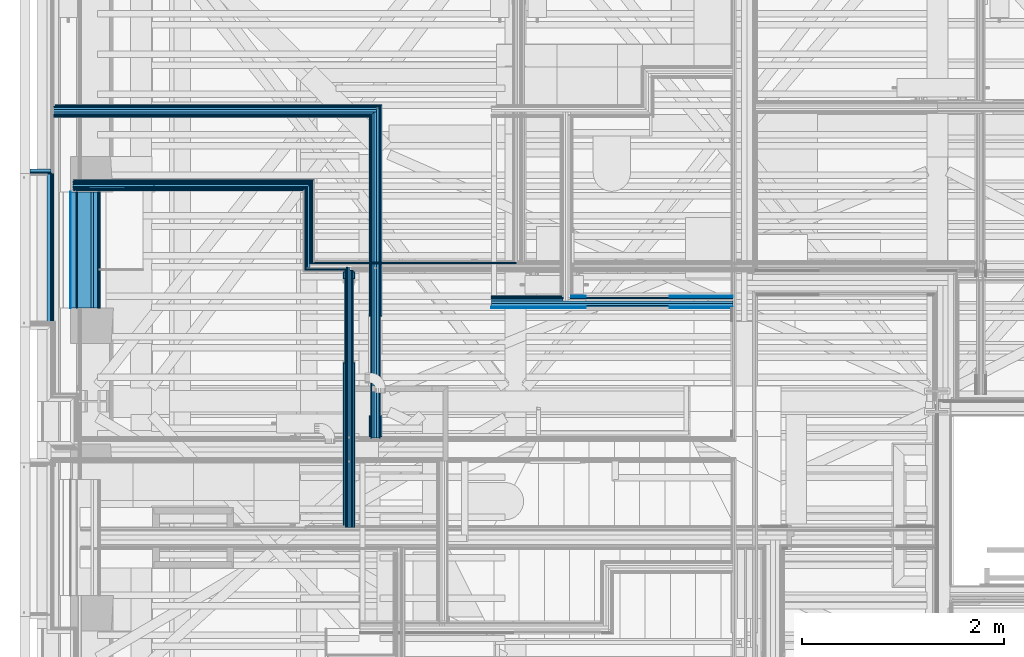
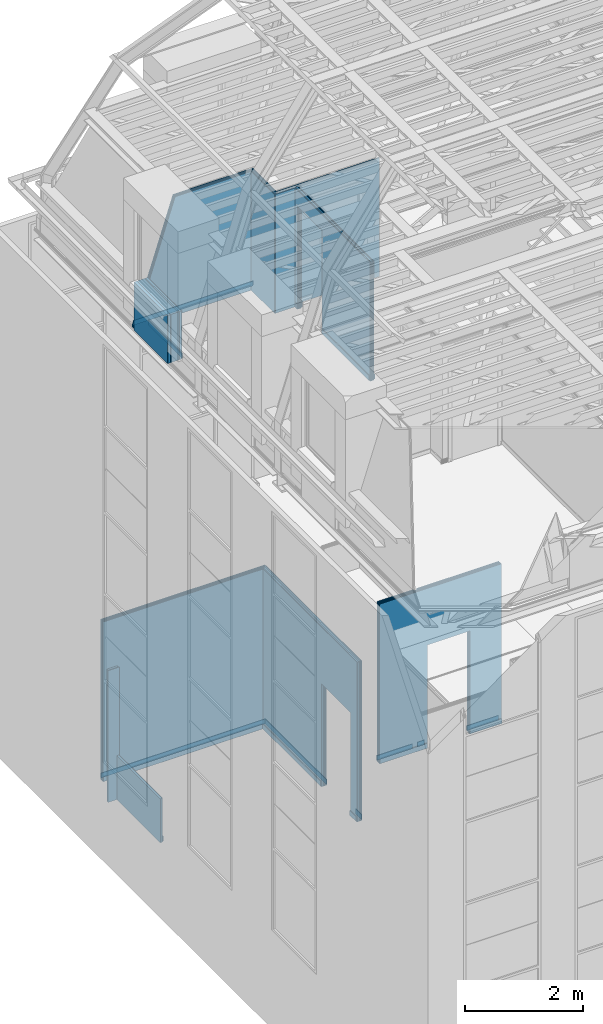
# One storey, part 38 of 183: 57 building element parts, 3 openings, 10 elements without a shape of their own.
"""IFC2X3 building model written with IfcOpenShell, lengths in metres."""

from ifc_helpers import new_model, entity, si_unit, converted_unit, derived_unit, money_unit, direction, frame, frame_2d, origin_with_axes, place, context, subcontext, project, spatial, polyline, rectangle, outline, extrude, clip, halfspace, material, type_object, element, aggregate, save


model = new_model("IFC2X3")

# Units and contexts
model_context = context("Model", 3, precision=1e-05, world=origin_with_axes(), true_north=direction((0.0, 1.0)))
body_context = subcontext(model_context, "Body", "Model", "MODEL_VIEW", scale=1.0)
ifc_project = project(units=[si_unit("LENGTHUNIT", "METRE"), si_unit("AREAUNIT", "SQUARE_METRE"), si_unit("VOLUMEUNIT", "CUBIC_METRE"), si_unit("ABSORBEDDOSEUNIT", "GRAY"), si_unit("AMOUNTOFSUBSTANCEUNIT", "MOLE"), si_unit("DOSEEQUIVALENTUNIT", "SIEVERT"), si_unit("ELECTRICCAPACITANCEUNIT", "FARAD"), si_unit("ELECTRICCHARGEUNIT", "COULOMB"), si_unit("ELECTRICCONDUCTANCEUNIT", "SIEMENS"), si_unit("ELECTRICCURRENTUNIT", "AMPERE"), si_unit("ELECTRICRESISTANCEUNIT", "OHM"), si_unit("ELECTRICVOLTAGEUNIT", "VOLT"), si_unit("ENERGYUNIT", "JOULE"), si_unit("FORCEUNIT", "NEWTON"), si_unit("FREQUENCYUNIT", "HERTZ"), si_unit("ILLUMINANCEUNIT", "LUX"), si_unit("INDUCTANCEUNIT", "HENRY"), si_unit("LUMINOUSFLUXUNIT", "LUMEN"), si_unit("LUMINOUSINTENSITYUNIT", "CANDELA"), si_unit("MAGNETICFLUXDENSITYUNIT", "TESLA"), si_unit("MAGNETICFLUXUNIT", "WEBER"), si_unit("MASSUNIT", "GRAM"), converted_unit("PLANEANGLEUNIT", "degree", entity("IfcReal", 0.0174532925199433), si_unit("PLANEANGLEUNIT", "RADIAN"), dimensions=[0, 0, 0, 0, 0, 0, 0]), si_unit("POWERUNIT", "WATT"), si_unit("PRESSUREUNIT", "PASCAL"), si_unit("RADIOACTIVITYUNIT", "BECQUEREL"), si_unit("SOLIDANGLEUNIT", "STERADIAN"), si_unit("THERMODYNAMICTEMPERATUREUNIT", "KELVIN"), si_unit("TIMEUNIT", "SECOND"), derived_unit("ACCELERATIONUNIT", [(si_unit("LENGTHUNIT", "METRE"), 1), (si_unit("TIMEUNIT", "SECOND"), -2)]), derived_unit("ANGULARVELOCITYUNIT", [(converted_unit("PLANEANGLEUNIT", "degree", entity("IfcReal", 0.0174532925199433), si_unit("PLANEANGLEUNIT", "RADIAN"), dimensions=[0, 0, 0, 0, 0, 0, 0]), 1), (si_unit("TIMEUNIT", "SECOND"), -1)]), derived_unit("CURVATUREUNIT", [(converted_unit("PLANEANGLEUNIT", "degree", entity("IfcReal", 0.0174532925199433), si_unit("PLANEANGLEUNIT", "RADIAN"), dimensions=[0, 0, 0, 0, 0, 0, 0]), 1), (si_unit("LENGTHUNIT", "METRE"), -1)]), derived_unit("DYNAMICVISCOSITYUNIT", [(si_unit("PRESSUREUNIT", "PASCAL"), 1), (si_unit("TIMEUNIT", "SECOND"), 1)]), derived_unit("HEATFLUXDENSITYUNIT", [(si_unit("POWERUNIT", "WATT"), 1), (si_unit("LENGTHUNIT", "METRE"), -2)]), derived_unit("HEATINGVALUEUNIT", [(si_unit("ENERGYUNIT", "JOULE"), 1), (si_unit("MASSUNIT", "GRAM"), -1)]), derived_unit("INTEGERCOUNTRATEUNIT", [(si_unit("TIMEUNIT", "SECOND"), -1)]), derived_unit("IONCONCENTRATIONUNIT", [(si_unit("MASSUNIT", "GRAM"), 1), (si_unit("VOLUMEUNIT", "CUBIC_METRE"), -1)]), derived_unit("ISOTHERMALMOISTURECAPACITYUNIT", [(si_unit("VOLUMEUNIT", "CUBIC_METRE"), 1), (si_unit("MASSUNIT", "GRAM"), -1)]), derived_unit("KINEMATICVISCOSITYUNIT", [(si_unit("AREAUNIT", "SQUARE_METRE"), 1), (si_unit("TIMEUNIT", "SECOND"), -1)]), derived_unit("LINEARFORCEUNIT", [(si_unit("FORCEUNIT", "NEWTON"), 1), (si_unit("LENGTHUNIT", "METRE"), -1)]), derived_unit("LINEARMOMENTUNIT", [(si_unit("FORCEUNIT", "NEWTON"), 1), (si_unit("LENGTHUNIT", "METRE"), -1)]), derived_unit("LINEARSTIFFNESSUNIT", [(si_unit("FORCEUNIT", "NEWTON"), 1), (si_unit("LENGTHUNIT", "METRE"), -1)]), derived_unit("LINEARVELOCITYUNIT", [(si_unit("LENGTHUNIT", "METRE"), 1), (si_unit("TIMEUNIT", "SECOND"), -1)]), derived_unit("LUMINOUSINTENSITYDISTRIBUTIONUNIT", [(si_unit("LUMINOUSINTENSITYUNIT", "CANDELA"), 1), (si_unit("LUMINOUSFLUXUNIT", "LUMEN"), -1)]), derived_unit("MASSDENSITYUNIT", [(si_unit("MASSUNIT", "GRAM"), 1), (si_unit("VOLUMEUNIT", "CUBIC_METRE"), -1)]), derived_unit("MASSFLOWRATEUNIT", [(si_unit("MASSUNIT", "GRAM"), 1), (si_unit("TIMEUNIT", "SECOND"), -1)]), derived_unit("MASSPERLENGTHUNIT", [(si_unit("MASSUNIT", "GRAM"), 1), (si_unit("LENGTHUNIT", "METRE"), -1)]), derived_unit("MODULUSOFELASTICITYUNIT", [(si_unit("FORCEUNIT", "NEWTON"), 1), (si_unit("AREAUNIT", "SQUARE_METRE"), -1)]), derived_unit("MODULUSOFLINEARSUBGRADEREACTIONUNIT", [(si_unit("FORCEUNIT", "NEWTON"), 1), (si_unit("LENGTHUNIT", "METRE"), -2)]), derived_unit("MODULUSOFROTATIONALSUBGRADEREACTIONUNIT", [(si_unit("FORCEUNIT", "NEWTON"), 1), (si_unit("LENGTHUNIT", "METRE"), 1)]), derived_unit("MODULUSOFSUBGRADEREACTIONUNIT", [(si_unit("FORCEUNIT", "NEWTON"), 1), (si_unit("VOLUMEUNIT", "CUBIC_METRE"), -1)]), derived_unit("MOISTUREDIFFUSIVITYUNIT", [(si_unit("VOLUMEUNIT", "CUBIC_METRE"), 1), (si_unit("TIMEUNIT", "SECOND"), -1)]), derived_unit("MOLECULARWEIGHTUNIT", [(si_unit("MASSUNIT", "GRAM"), 1), (si_unit("AMOUNTOFSUBSTANCEUNIT", "MOLE"), -1)]), derived_unit("PLANARFORCEUNIT", [(si_unit("FORCEUNIT", "NEWTON"), 1), (si_unit("LENGTHUNIT", "METRE"), -2)]), derived_unit("ROTATIONALFREQUENCYUNIT", [(si_unit("TIMEUNIT", "SECOND"), -1)]), derived_unit("ROTATIONALMASSUNIT", [(si_unit("MASSUNIT", "GRAM"), 1), (si_unit("LENGTHUNIT", "METRE"), 2)]), derived_unit("ROTATIONALSTIFFNESSUNIT", [(si_unit("FORCEUNIT", "NEWTON"), 1), (si_unit("LENGTHUNIT", "METRE"), 1), (converted_unit("PLANEANGLEUNIT", "degree", entity("IfcReal", 0.0174532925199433), si_unit("PLANEANGLEUNIT", "RADIAN"), dimensions=[0, 0, 0, 0, 0, 0, 0]), -1)]), derived_unit("SECTIONAREAINTEGRALUNIT", [(si_unit("LENGTHUNIT", "METRE"), 5)]), derived_unit("SECTIONMODULUSUNIT", [(si_unit("LENGTHUNIT", "METRE"), 3)]), derived_unit("SHEARMODULUSUNIT", [(si_unit("FORCEUNIT", "NEWTON"), 1), (si_unit("AREAUNIT", "SQUARE_METRE"), -1)]), derived_unit("SOUNDPOWERUNIT", [(si_unit("ENERGYUNIT", "JOULE"), 1), (si_unit("TIMEUNIT", "SECOND"), -1)]), derived_unit("SPECIFICHEATCAPACITYUNIT", [(si_unit("FORCEUNIT", "NEWTON"), 1), (si_unit("MASSUNIT", "GRAM"), -1), (si_unit("THERMODYNAMICTEMPERATUREUNIT", "KELVIN"), -1)]), derived_unit("TEMPERATUREGRADIENTUNIT", [(si_unit("THERMODYNAMICTEMPERATUREUNIT", "KELVIN"), 1), (si_unit("LENGTHUNIT", "METRE"), -1)]), derived_unit("THERMALADMITTANCEUNIT", [(si_unit("POWERUNIT", "WATT"), 1), (si_unit("AREAUNIT", "SQUARE_METRE"), -1), (si_unit("THERMODYNAMICTEMPERATUREUNIT", "KELVIN"), -1)]), derived_unit("THERMALCONDUCTANCEUNIT", [(si_unit("POWERUNIT", "WATT"), 1), (si_unit("LENGTHUNIT", "METRE"), -1), (si_unit("THERMODYNAMICTEMPERATUREUNIT", "KELVIN"), -1)]), derived_unit("THERMALEXPANSIONCOEFFICIENTUNIT", [(si_unit("THERMODYNAMICTEMPERATUREUNIT", "KELVIN"), -1)]), derived_unit("THERMALRESISTANCEUNIT", [(si_unit("AREAUNIT", "SQUARE_METRE"), 1), (si_unit("POWERUNIT", "WATT"), -1)]), derived_unit("THERMALTRANSMITTANCEUNIT", [(si_unit("POWERUNIT", "WATT"), 1), (si_unit("AREAUNIT", "SQUARE_METRE"), -1), (si_unit("THERMODYNAMICTEMPERATUREUNIT", "KELVIN"), -1)]), derived_unit("TORQUEUNIT", [(si_unit("FORCEUNIT", "NEWTON"), 1), (si_unit("LENGTHUNIT", "METRE"), 1)]), derived_unit("VAPORPERMEABILITYUNIT", [(si_unit("MASSUNIT", "GRAM"), 1), (si_unit("TIMEUNIT", "SECOND"), -1)]), derived_unit("VOLUMETRICFLOWRATEUNIT", [(si_unit("VOLUMEUNIT", "CUBIC_METRE"), 1), (si_unit("TIMEUNIT", "SECOND"), -1)]), derived_unit("WARPINGCONSTANTUNIT", [(si_unit("LENGTHUNIT", "METRE"), 6)]), derived_unit("WARPINGMOMENTUNIT", [(si_unit("FORCEUNIT", "NEWTON"), 1), (si_unit("LENGTHUNIT", "METRE"), 2)]), money_unit("GBP")], contexts=[model_context])

# Site, building, storey
site_placement = place(None, origin_with_axes())
site = spatial("IfcSite", under=ifc_project, at=site_placement, Name="Site", CompositionType="ELEMENT")
building_placement = place(site_placement, origin_with_axes())
building = spatial("IfcBuilding", under=site, at=building_placement, Name="Building01", CompositionType="ELEMENT")
storey_placement = place(building_placement, frame((0.0, 0.0, 5.15), z_axis=(0.0, 0.0, 1.0), x_axis=(1.0, 0.0, 0.0)))
storey = spatial("IfcBuildingStorey", under=building, at=storey_placement, Name="1F", CompositionType="ELEMENT", Elevation=5.15)

# Wall, opening, building element parts
wall_type_1 = type_object("IfcWallType", Name="SHE_A-Walls_Type05a_Partition_95mm_tall", PredefinedType="NOTDEFINED")
wall_1_placement = place(storey_placement, frame((7.064669, 9.79567, 0.0), z_axis=(0.0, 0.0, 1.0), x_axis=(-1.0, 0.0, 0.0)))
wall_1 = element("IfcWall", 1, at=wall_1_placement, inside=storey, type_object=wall_type_1, Name="5A", ObjectType="SHE_A-Walls_Type05a_Partition_95mm_tall")
opening_1_placement = place(wall_1_placement, frame((0.624, -0.05, 0.0), z_axis=(0.0, 0.0, 1.0), x_axis=(1.0, 0.0, 0.0)))
element("IfcOpeningElement", 2, at=opening_1_placement, cuts=wall_1, Name="Opening", ObjectType="Opening", context=body_context, shape_type="SweptSolid", body=[
    extrude(rectangle(XDim=2.142, YDim=0.834, at=frame_2d((-0.417, 1.071), x_axis=(0.0, -1.0))), frame((0.0, 0.0, 0.0), z_axis=(0.0, 1.0, 0.0), x_axis=(-1.0, 0.0, 0.0)), (0.0, 0.0, 1.0), 0.125),
])
ifc_material_1 = material(Name="A_BSUK_Walls_Timber")
placement_1 = place(wall_1_placement, origin_with_axes())
building_element_part_1 = element("IfcBuildingElementPart", 3, at=placement_1, material=ifc_material_1, Name="1", context=body_context, shape_type="SweptSolid", body=[
    extrude(rectangle(XDim=1.6, YDim=0.015, at=frame_2d((0.8, -0.0425), x_axis=(-1.0, 0.0))), frame((0.0, 0.0, 0.015), z_axis=(0.0, 0.0, 1.0), x_axis=(1.0, 0.0, 0.0)), (0.0, 0.0, 1.0), 0.1),
])
building_element_part_2 = element("IfcBuildingElementPart", 4, at=placement_1, material=ifc_material_1, Name="2", context=body_context, shape_type="SweptSolid", body=[
    extrude(rectangle(XDim=0.7, YDim=0.015, at=frame_2d((2.045, -0.0425), x_axis=(-1.0, 0.0))), frame((0.0, 0.0, 0.015), z_axis=(0.0, 0.0, 1.0), x_axis=(1.0, 0.0, 0.0)), (0.0, 0.0, 1.0), 0.1),
])
ifc_material_2 = material(Name="A_BSUK_WallInternal_Finishes_Plasterboard")
building_element_part_3 = element("IfcBuildingElementPart", 5, at=placement_1, material=ifc_material_2, Name="3", context=body_context, shape_type="SweptSolid", body=[
    extrude(rectangle(XDim=1.612, YDim=0.012, at=frame_2d((0.806, -0.029), x_axis=(-1.0, 0.0))), origin_with_axes(), (0.0, 0.0, 1.0), 3.32),
])
building_element_part_4 = element("IfcBuildingElementPart", 6, at=placement_1, material=ifc_material_2, Name="4", context=body_context, shape_type="SweptSolid", body=[
    extrude(rectangle(XDim=0.712, YDim=0.012, at=frame_2d((2.039, -0.029), x_axis=(-1.0, 0.0))), origin_with_axes(), (0.0, 0.0, 1.0), 3.32),
])
ifc_material_3 = material(Name="Air Cavity")
building_element_part_5 = element("IfcBuildingElementPart", 7, at=placement_1, material=ifc_material_3, Name="5", context=body_context, shape_type="SweptSolid", body=[
    extrude(rectangle(XDim=0.712, YDim=0.023, at=frame_2d((2.039, -0.0115), x_axis=(-1.0, 0.0))), origin_with_axes(), (0.0, 0.0, 1.0), 3.32),
])
ifc_material_4 = material(Name="A_BSUK_Insulation")
building_element_part_6 = element("IfcBuildingElementPart", 8, at=placement_1, material=ifc_material_4, Name="6", context=body_context, shape_type="SweptSolid", body=[
    extrude(rectangle(XDim=2.395, YDim=0.025, at=frame_2d((1.1975, 0.0125), x_axis=(-1.0, 0.0))), origin_with_axes(), (0.0, 0.0, 1.0), 3.32),
])
building_element_part_7 = element("IfcBuildingElementPart", 9, at=placement_1, material=ifc_material_3, Name="7", context=body_context, shape_type="SweptSolid", body=[
    extrude(rectangle(XDim=2.395, YDim=0.023, at=frame_2d((1.1975, 0.0365), x_axis=(-1.0, 0.0))), origin_with_axes(), (0.0, 0.0, 1.0), 3.32),
])
building_element_part_8 = element("IfcBuildingElementPart", 10, at=placement_1, material=ifc_material_2, Name="8", context=body_context, shape_type="SweptSolid", body=[
    extrude(rectangle(XDim=2.395, YDim=0.012, at=frame_2d((1.1975, 0.054), x_axis=(-1.0, 0.0))), origin_with_axes(), (0.0, 0.0, 1.0), 3.32),
])
building_element_part_9 = element("IfcBuildingElementPart", 11, at=placement_1, material=ifc_material_1, Name="9", context=body_context, shape_type="SweptSolid", body=[
    extrude(rectangle(XDim=2.395, YDim=0.015, at=frame_2d((1.1975, 0.0675), x_axis=(-1.0, 0.0))), frame((0.0, 0.0, 0.015), z_axis=(0.0, 0.0, 1.0), x_axis=(1.0, 0.0, 0.0)), (0.0, 0.0, 1.0), 0.1),
])
aggregate(wall_1, [building_element_part_1, building_element_part_2, building_element_part_3, building_element_part_4, building_element_part_5, building_element_part_6, building_element_part_7, building_element_part_8, building_element_part_9])

wall_2_placement = place(storey_placement, frame((3.534669, 8.43567, 0.0), z_axis=(0.0, 0.0, 1.0), x_axis=(0.0, 1.0, 0.0)))
wall_2 = element("IfcWall", 12, at=wall_2_placement, inside=storey, type_object=wall_type_1, Name="5A", ObjectType="SHE_A-Walls_Type05a_Partition_95mm_tall")
opening_2_placement = place(wall_2_placement, frame((0.223034, -0.05, 0.0), z_axis=(0.0, 0.0, 1.0), x_axis=(1.0, 0.0, 0.0)))
element("IfcOpeningElement", 13, at=opening_2_placement, cuts=wall_2, Name="Opening", ObjectType="Opening", context=body_context, shape_type="SweptSolid", body=[
    extrude(rectangle(XDim=0.984, YDim=2.142, at=frame_2d((-0.492, 1.071), x_axis=(1.0, 0.0))), frame((0.0, 0.0, 0.0), z_axis=(0.0, 1.0, 0.0), x_axis=(-1.0, 0.0, 0.0)), (0.0, 0.0, 1.0), 0.125),
])
placement_2 = place(wall_2_placement, origin_with_axes())
building_element_part_10 = element("IfcBuildingElementPart", 14, at=placement_2, material=ifc_material_1, Name="1", context=body_context, shape_type="SweptSolid", body=[
    extrude(outline(polyline([(3.29, -0.035), (0.015, -0.035), (0.015, -0.05), (3.305, -0.05), (3.29, -0.035)])), frame((0.0, 0.0, 0.015), z_axis=(0.0, 0.0, 1.0), x_axis=(1.0, 0.0, 0.0)), (0.0, 0.0, 1.0), 0.1),
])
building_element_part_11 = element("IfcBuildingElementPart", 15, at=placement_2, material=ifc_material_2, Name="2", context=body_context, shape_type="SweptSolid", body=[
    extrude(outline(polyline([(3.278, -0.023), (0.0, -0.023), (0.0, -0.035), (3.29, -0.035), (3.278, -0.023)])), origin_with_axes(), (0.0, 0.0, 1.0), 3.32),
])
building_element_part_12 = element("IfcBuildingElementPart", 16, at=placement_2, material=ifc_material_3, Name="3", context=body_context, shape_type="SweptSolid", body=[
    extrude(outline(polyline([(3.255, 0.0), (0.0, 0.0), (0.0, -0.023), (3.278, -0.023), (3.255, 0.0)])), origin_with_axes(), (0.0, 0.0, 1.0), 3.32),
])
building_element_part_13 = element("IfcBuildingElementPart", 17, at=placement_2, material=ifc_material_4, Name="4", context=body_context, shape_type="SweptSolid", body=[
    extrude(rectangle(XDim=3.23, YDim=0.025, at=frame_2d((1.615, 0.0125), x_axis=(-1.0, 0.0))), origin_with_axes(), (0.0, 0.0, 1.0), 3.32),
])
building_element_part_14 = element("IfcBuildingElementPart", 18, at=placement_2, material=ifc_material_3, Name="5", context=body_context, shape_type="SweptSolid", body=[
    extrude(rectangle(XDim=3.23, YDim=0.023, at=frame_2d((1.615, 0.0365), x_axis=(-1.0, 0.0))), origin_with_axes(), (0.0, 0.0, 1.0), 3.32),
])
building_element_part_15 = element("IfcBuildingElementPart", 19, at=placement_2, material=ifc_material_2, Name="6", context=body_context, shape_type="SweptSolid", body=[
    extrude(outline(polyline([(3.195, 0.06), (0.0, 0.06), (0.0, 0.048), (3.207, 0.048), (3.195, 0.06)])), origin_with_axes(), (0.0, 0.0, 1.0), 3.32),
])
building_element_part_16 = element("IfcBuildingElementPart", 20, at=placement_2, material=ifc_material_1, Name="7", context=body_context, shape_type="SweptSolid", body=[
    extrude(outline(polyline([(3.18, 0.075), (0.015, 0.075), (0.015, 0.06), (3.195, 0.06), (3.18, 0.075)])), frame((0.0, 0.0, 0.015), z_axis=(0.0, 0.0, 1.0), x_axis=(1.0, 0.0, 0.0)), (0.0, 0.0, 1.0), 0.1),
])
aggregate(wall_2, [building_element_part_10, building_element_part_11, building_element_part_12, building_element_part_13, building_element_part_14, building_element_part_15, building_element_part_16])

# Wall, building element parts
wall_3_placement = place(storey_placement, frame((0.333, 11.69067, 0.0), z_axis=(0.0, 0.0, 1.0), x_axis=(1.0, 0.0, 0.0)))
wall_3 = element("IfcWall", 21, at=wall_3_placement, inside=storey, type_object=wall_type_1, Name="5A", ObjectType="SHE_A-Walls_Type05a_Partition_95mm_tall")
placement_3 = place(wall_3_placement, origin_with_axes())
building_element_part_17 = element("IfcBuildingElementPart", 22, at=placement_3, material=ifc_material_1, Name="1", context=body_context, shape_type="SweptSolid", body=[
    extrude(outline(polyline([(3.141669, -0.06), (0.0, -0.06), (0.0, -0.075), (3.126669, -0.075), (3.141669, -0.06)])), frame((0.0, 0.0, 0.015), z_axis=(0.0, 0.0, 1.0), x_axis=(1.0, 0.0, 0.0)), (0.0, 0.0, 1.0), 0.1),
])
building_element_part_18 = element("IfcBuildingElementPart", 23, at=placement_3, material=ifc_material_2, Name="2", context=body_context, shape_type="SweptSolid", body=[
    extrude(outline(polyline([(3.153669, -0.048), (0.0, -0.048), (0.0, -0.06), (3.141669, -0.06), (3.153669, -0.048)])), origin_with_axes(), (0.0, 0.0, 1.0), 3.32),
])
building_element_part_19 = element("IfcBuildingElementPart", 24, at=placement_3, material=ifc_material_3, Name="3", context=body_context, shape_type="SweptSolid", body=[
    extrude(outline(polyline([(3.176669, -0.025), (0.0, -0.025), (0.0, -0.048), (3.153669, -0.048), (3.176669, -0.025)])), origin_with_axes(), (0.0, 0.0, 1.0), 3.32),
])
building_element_part_20 = element("IfcBuildingElementPart", 25, at=placement_3, material=ifc_material_4, Name="4", context=body_context, shape_type="SweptSolid", body=[
    extrude(rectangle(XDim=3.201669, YDim=0.025, at=frame_2d((1.600834, -0.0125), x_axis=(-1.0, 0.0))), origin_with_axes(), (0.0, 0.0, 1.0), 3.32),
])
building_element_part_21 = element("IfcBuildingElementPart", 26, at=placement_3, material=ifc_material_3, Name="5", context=body_context, shape_type="SweptSolid", body=[
    extrude(rectangle(XDim=3.201669, YDim=0.023, at=frame_2d((1.600834, 0.0115), x_axis=(-1.0, 0.0))), origin_with_axes(), (0.0, 0.0, 1.0), 3.32),
])
building_element_part_22 = element("IfcBuildingElementPart", 27, at=placement_3, material=ifc_material_2, Name="6", context=body_context, shape_type="SweptSolid", body=[
    extrude(outline(polyline([(3.236669, 0.035), (0.0, 0.035), (0.0, 0.023), (3.224669, 0.023), (3.236669, 0.035)])), origin_with_axes(), (0.0, 0.0, 1.0), 3.32),
])
building_element_part_23 = element("IfcBuildingElementPart", 28, at=placement_3, material=ifc_material_1, Name="7", context=body_context, shape_type="SweptSolid", body=[
    extrude(outline(polyline([(3.251669, 0.05), (0.015, 0.05), (0.015, 0.035), (3.236669, 0.035), (3.251669, 0.05)])), frame((0.0, 0.0, 0.015), z_axis=(0.0, 0.0, 1.0), x_axis=(1.0, 0.0, 0.0)), (0.0, 0.0, 1.0), 0.1),
])
aggregate(wall_3, [building_element_part_17, building_element_part_18, building_element_part_19, building_element_part_20, building_element_part_21, building_element_part_22, building_element_part_23])

wall_type_2 = type_object("IfcWallType", Name="SHE_A-Walls_Type06d_ExternalWallInsulation_48mm", PredefinedType="NOTDEFINED")
wall_4_placement = place(storey_placement, frame((0.306, 11.103, 0.0), z_axis=(0.0, 0.0, 1.0), x_axis=(-1.0, 0.0, 0.0)))
wall_4 = element("IfcWall", 29, at=wall_4_placement, inside=storey, type_object=wall_type_2, Name="6D", ObjectType="SHE_A-Walls_Type06d_ExternalWallInsulation_48mm")
placement_4 = place(wall_4_placement, origin_with_axes())
building_element_part_24 = element("IfcBuildingElementPart", 30, at=placement_4, material=ifc_material_4, Name="1", context=body_context, shape_type="SweptSolid", body=[
    extrude(rectangle(XDim=0.036, YDim=0.206, at=frame_2d((0.103, 0.018), x_axis=(0.0, -1.0))), origin_with_axes(), (0.0, 0.0, 1.0), 2.74),
])
building_element_part_25 = element("IfcBuildingElementPart", 31, at=placement_4, material=ifc_material_2, Name="2", context=body_context, shape_type="SweptSolid", body=[
    extrude(outline(polyline([(-0.012, 0.048), (0.001, 0.035), (0.206, 0.035), (0.206, 0.048), (-0.012, 0.048)])), origin_with_axes(), (0.0, 0.0, 1.0), 2.74),
])
aggregate(wall_4, [building_element_part_24, building_element_part_25])

wall_5_placement = place(storey_placement, frame((0.306, 11.055, 0.0), z_axis=(0.0, 0.0, 1.0), x_axis=(0.0, -1.0, 0.0)))
wall_5 = element("IfcWall", 32, at=wall_5_placement, inside=storey, type_object=wall_type_2, Name="6D", ObjectType="SHE_A-Walls_Type06d_ExternalWallInsulation_48mm")
placement_5 = place(wall_5_placement, origin_with_axes())
building_element_part_26 = element("IfcBuildingElementPart", 33, at=placement_5, material=ifc_material_4, Name="1", context=body_context, shape_type="SweptSolid", body=[
    extrude(rectangle(XDim=1.47782, YDim=0.036, at=frame_2d((0.73891, -0.018), x_axis=(-1.0, 0.0))), origin_with_axes(), (0.0, 0.0, 1.0), 0.915),
])
building_element_part_27 = element("IfcBuildingElementPart", 34, at=placement_5, material=ifc_material_2, Name="2", context=body_context, shape_type="SweptSolid", body=[
    extrude(rectangle(XDim=1.47782, YDim=0.013, at=frame_2d((0.73891, 0.0055), x_axis=(-1.0, 0.0))), origin_with_axes(), (0.0, 0.0, 1.0), 0.915),
])
building_element_part_28 = element("IfcBuildingElementPart", 35, at=placement_5, material=ifc_material_1, Name="3", context=body_context, shape_type="SweptSolid", body=[
    extrude(rectangle(XDim=1.47782, YDim=0.015, at=frame_2d((0.73891, 0.0195), x_axis=(-1.0, 0.0))), frame((0.0, 0.0, 0.015), z_axis=(0.0, 0.0, 1.0), x_axis=(1.0, 0.0, 0.0)), (0.0, 0.0, 1.0), 0.1),
])
aggregate(wall_5, [building_element_part_26, building_element_part_27, building_element_part_28])

# Wall, opening, building element parts
wall_type_3 = type_object("IfcWallType", Name="SHE_A-Walls_Type05b_Partition_80mm", PredefinedType="NOTDEFINED")
wall_6_placement = place(storey_placement, frame((3.272, 7.550061, 9.78), z_axis=(0.0, 0.0, 1.0), x_axis=(0.0, 1.0, 0.0)))
wall_6 = element("IfcWall", 36, at=wall_6_placement, inside=storey, type_object=wall_type_3, Name="5B", ObjectType="SHE_A-Walls_Type05b_Partition_80mm")
opening_3_placement = place(wall_6_placement, frame((1.632879, -0.043, 0.0), z_axis=(0.0, 0.0, 1.0), x_axis=(1.0, 0.0, 0.0)))
element("IfcOpeningElement", 37, at=opening_3_placement, cuts=wall_6, Name="Opening", ObjectType="Opening", context=body_context, shape_type="SweptSolid", body=[
    extrude(rectangle(XDim=0.834, YDim=2.142, at=frame_2d((-0.417, 1.071), x_axis=(-1.0, 0.0))), frame((0.0, 0.0, 0.0), z_axis=(0.0, 1.0, 0.0), x_axis=(-1.0, 0.0, 0.0)), (0.0, 0.0, 1.0), 0.11),
])
placement_6 = place(wall_6_placement, origin_with_axes())
building_element_part_29 = element("IfcBuildingElementPart", 38, at=placement_6, material=ifc_material_1, Name="1", context=body_context, shape_type="SweptSolid", body=[
    extrude(rectangle(XDim=2.534879, YDim=0.015, at=frame_2d((1.267439, -0.0355), x_axis=(-1.0, 0.0))), frame((0.0, 0.0, 0.015), z_axis=(0.0, 0.0, 1.0), x_axis=(1.0, 0.0, 0.0)), (0.0, 0.0, 1.0), 0.1),
])
building_element_part_30 = element("IfcBuildingElementPart", 39, at=placement_6, material=ifc_material_2, Name="2", context=body_context, shape_type="SweptSolid", body=[
    extrude(rectangle(XDim=2.549879, YDim=0.015, at=frame_2d((1.274939, -0.0205), x_axis=(-1.0, 0.0))), origin_with_axes(), (0.0, 0.0, 1.0), 2.468),
])
building_element_part_31 = element("IfcBuildingElementPart", 40, at=placement_6, material=ifc_material_3, Name="3", context=body_context, shape_type="SweptSolid", body=[
    extrude(rectangle(XDim=2.549879, YDim=0.013, at=frame_2d((1.274939, -0.0065), x_axis=(-1.0, 0.0))), origin_with_axes(), (0.0, 0.0, 1.0), 2.468),
])
building_element_part_32 = element("IfcBuildingElementPart", 41, at=placement_6, material=ifc_material_4, Name="4", context=body_context, shape_type="SweptSolid", body=[
    extrude(rectangle(XDim=2.576879, YDim=0.025, at=frame_2d((1.288439, 0.0125), x_axis=(-1.0, 0.0))), origin_with_axes(), (0.0, 0.0, 1.0), 2.468),
])
building_element_part_33 = element("IfcBuildingElementPart", 42, at=placement_6, material=ifc_material_3, Name="5", context=body_context, shape_type="SweptSolid", body=[
    extrude(rectangle(XDim=2.576879, YDim=0.012, at=frame_2d((1.288439, 0.031), x_axis=(-1.0, 0.0))), origin_with_axes(), (0.0, 0.0, 1.0), 2.468),
])
building_element_part_34 = element("IfcBuildingElementPart", 43, at=placement_6, material=ifc_material_2, Name="6", context=body_context, shape_type="SweptSolid", body=[
    extrude(rectangle(XDim=2.549879, YDim=0.015, at=frame_2d((1.274939, 0.0445), x_axis=(-1.0, 0.0))), origin_with_axes(), (0.0, 0.0, 1.0), 2.468),
])
building_element_part_35 = element("IfcBuildingElementPart", 44, at=placement_6, material=ifc_material_1, Name="7", context=body_context, shape_type="SweptSolid", body=[
    extrude(rectangle(XDim=2.519879, YDim=0.015, at=frame_2d((1.274939, 0.0595), x_axis=(-1.0, 0.0))), frame((0.0, 0.0, 0.015), z_axis=(0.0, 0.0, 1.0), x_axis=(1.0, 0.0, 0.0)), (0.0, 0.0, 1.0), 0.1),
])
aggregate(wall_6, [building_element_part_29, building_element_part_30, building_element_part_31, building_element_part_32, building_element_part_33, building_element_part_34, building_element_part_35])

# Wall, building element parts
wall_type_4 = type_object("IfcWallType", Name="SHE_A-Walls_Type06e_ExternalWallPenthouse_280mm", PredefinedType="NOTDEFINED")
wall_7_placement = place(storey_placement, frame((0.564939, 10.874915, 9.78), z_axis=(0.0, 0.0, 1.0), x_axis=(0.0, 1.0, 0.0)))
wall_7 = element("IfcWall", 45, at=wall_7_placement, inside=storey, type_object=wall_type_4, Name="6E", ObjectType="SHE_A-Walls_Type06e_ExternalWallPenthouse_280mm")
placement_7 = place(wall_7_placement, origin_with_axes())
building_element_part_36 = element("IfcBuildingElementPart", 46, at=placement_7, material=ifc_material_1, Name="1", context=body_context, shape_type="SweptSolid", body=[
    extrude(rectangle(XDim=1.149951, YDim=0.015, at=frame_2d((-0.574976, -0.2225), x_axis=(1.0, 0.0))), frame((0.0, 0.0, 0.015), z_axis=(0.0, 0.0, 1.0), x_axis=(1.0, 0.0, 0.0)), (0.0, 0.0, 1.0), 0.1),
])
building_element_part_37 = element("IfcBuildingElementPart", 47, at=placement_7, material=ifc_material_2, Name="2", context=body_context, shape_type="SweptSolid", body=[
    extrude(rectangle(XDim=1.149951, YDim=0.01, at=frame_2d((-0.574976, -0.21), x_axis=(1.0, 0.0))), origin_with_axes(), (0.0, 0.0, 1.0), 1.0),
])
building_element_part_38 = element("IfcBuildingElementPart", 48, at=placement_7, material=ifc_material_4, Name="3", context=body_context, shape_type="SweptSolid", body=[
    extrude(rectangle(XDim=1.149951, YDim=0.04, at=frame_2d((-0.574976, -0.185), x_axis=(1.0, 0.0))), origin_with_axes(), (0.0, 0.0, 1.0), 1.0),
])
building_element_part_39 = element("IfcBuildingElementPart", 49, at=placement_7, material=ifc_material_3, Name="4", context=body_context, shape_type="SweptSolid", body=[
    extrude(rectangle(XDim=1.149951, YDim=0.025, at=frame_2d((-0.574976, -0.1525), x_axis=(1.0, 0.0))), origin_with_axes(), (0.0, 0.0, 1.0), 1.0),
])
building_element_part_40 = element("IfcBuildingElementPart", 50, at=placement_7, material=ifc_material_4, Name="5", context=body_context, shape_type="SweptSolid", body=[
    extrude(rectangle(XDim=1.149951, YDim=0.14, at=frame_2d((-0.574976, -0.07), x_axis=(1.0, 0.0))), origin_with_axes(), (0.0, 0.0, 1.0), 1.0),
])
building_element_part_41 = element("IfcBuildingElementPart", 51, at=placement_7, material=ifc_material_1, Name="6", context=body_context, shape_type="SweptSolid", body=[
    extrude(rectangle(XDim=1.149951, YDim=0.01, at=frame_2d((-0.574976, 0.005), x_axis=(1.0, 0.0))), origin_with_axes(), (0.0, 0.0, 1.0), 1.0),
])
building_element_part_42 = element("IfcBuildingElementPart", 52, at=placement_7, material=ifc_material_3, Name="7", context=body_context, shape_type="SweptSolid", body=[
    extrude(rectangle(XDim=1.149951, YDim=0.05, at=frame_2d((-0.574976, 0.035), x_axis=(1.0, 0.0))), origin_with_axes(), (0.0, 0.0, 1.0), 1.0),
])
ifc_material_5 = material(Name="A_BSUK_WallInternal_Finishes_Metal")
building_element_part_43 = element("IfcBuildingElementPart", 53, at=placement_7, material=ifc_material_5, Name="8", context=body_context, shape_type="SweptSolid", body=[
    extrude(rectangle(XDim=1.149951, YDim=0.005, at=frame_2d((-0.574976, 0.0625), x_axis=(1.0, 0.0))), origin_with_axes(), (0.0, 0.0, 1.0), 1.0),
])
aggregate(wall_7, [building_element_part_36, building_element_part_37, building_element_part_38, building_element_part_39, building_element_part_40, building_element_part_41, building_element_part_42, building_element_part_43])

wall_8_placement = place(storey_placement, frame((2.872, 10.126939, 9.78), z_axis=(0.0, 0.0, 1.0), x_axis=(1.0, 0.0, 0.0)))
wall_8 = element("IfcWall", 54, at=wall_8_placement, inside=storey, type_object=wall_type_3, Name="5B", ObjectType="SHE_A-Walls_Type05b_Partition_80mm")
placement_8 = place(wall_8_placement, origin_with_axes())
building_element_part_44 = element("IfcBuildingElementPart", 55, at=placement_8, material=ifc_material_2, Name="3", context=body_context, shape_type="SweptSolid", body=[
    extrude(rectangle(XDim=0.4, YDim=0.015, at=frame_2d((0.163, -0.0195), x_axis=(-1.0, 0.0))), origin_with_axes(), (0.0, 0.0, 1.0), 2.468),
])
building_element_part_45 = element("IfcBuildingElementPart", 56, at=placement_8, material=ifc_material_2, Name="8", context=body_context, shape_type="SweptSolid", body=[
    extrude(rectangle(XDim=2.015024, YDim=0.015, at=frame_2d((1.035512, 0.0455), x_axis=(-1.0, 0.0))), origin_with_axes(), (0.0, 0.0, 1.0), 2.468),
])
aggregate(wall_8, [building_element_part_44, building_element_part_45])

wall_9_placement = place(storey_placement, frame((2.873, 10.952915, 9.78), z_axis=(0.0, 0.0, 1.0), x_axis=(-1.0, 0.0, 0.0)))
wall_9 = element("IfcWall", 57, at=wall_9_placement, inside=storey, type_object=wall_type_3, Name="5B", ObjectType="SHE_A-Walls_Type05b_Partition_80mm")
placement_9 = place(wall_9_placement, origin_with_axes())
building_element_part_46 = element("IfcBuildingElementPart", 58, at=placement_9, material=ifc_material_1, Name="1", context=body_context, shape_type="Clipping", body=[
    clip(extrude(outline(polyline([(2.34427, -0.027), (-0.027, -0.027), (-0.042, -0.042), (2.34427, -0.042), (2.34427, -0.027)])), frame((0.0, 0.0, 0.015), z_axis=(0.0, 0.0, 1.0), x_axis=(1.0, 0.0, 0.0)), (0.0, 0.0, 1.0), 0.1), halfspace(frame((2.12482, 0.0, 0.690396), z_axis=(-0.95105652, 0.0, -0.30901699), x_axis=(0.0, -1.0, 0.0)), True)),
])
building_element_part_47 = element("IfcBuildingElementPart", 59, at=placement_9, material=ifc_material_2, Name="2", context=body_context, shape_type="Clipping", body=[
    clip(extrude(outline(polyline([(2.349143, -0.012), (-0.012, -0.012), (-0.027, -0.027), (2.349143, -0.027), (2.349143, -0.012)])), origin_with_axes(), (0.0, 0.0, 1.0), 2.468), halfspace(frame((2.12482, 0.0, 0.690396), z_axis=(-0.95105652, 0.0, -0.30901699), x_axis=(0.0, -1.0, 0.0)), True)),
])
building_element_part_48 = element("IfcBuildingElementPart", 60, at=placement_9, material=ifc_material_3, Name="3", context=body_context, shape_type="Clipping", body=[
    clip(extrude(outline(polyline([(2.349143, 0.0), (0.0, 0.0), (-0.012, -0.012), (2.349143, -0.012), (2.349143, 0.0)])), origin_with_axes(), (0.0, 0.0, 1.0), 2.468), halfspace(frame((2.12482, 0.0, 0.690396), z_axis=(-0.95105652, 0.0, -0.30901699), x_axis=(0.0, -1.0, 0.0)), True)),
])
building_element_part_49 = element("IfcBuildingElementPart", 61, at=placement_9, material=ifc_material_4, Name="4", context=body_context, shape_type="Clipping", body=[
    clip(extrude(outline(polyline([(2.349143, 0.025), (0.025, 0.025), (0.0, 0.0), (2.349143, 0.0), (2.349143, 0.025)])), origin_with_axes(), (0.0, 0.0, 1.0), 2.468), halfspace(frame((2.12482, 0.0, 0.690396), z_axis=(-0.95105652, 0.0, -0.30901699), x_axis=(0.0, -1.0, 0.0)), True)),
])
building_element_part_50 = element("IfcBuildingElementPart", 62, at=placement_9, material=ifc_material_3, Name="5", context=body_context, shape_type="Clipping", body=[
    clip(extrude(outline(polyline([(2.349143, 0.038), (0.038, 0.038), (0.025, 0.025), (2.349143, 0.025), (2.349143, 0.038)])), origin_with_axes(), (0.0, 0.0, 1.0), 2.468), halfspace(frame((2.12482, 0.0, 0.690396), z_axis=(-0.95105652, 0.0, -0.30901699), x_axis=(0.0, -1.0, 0.0)), True)),
])
building_element_part_51 = element("IfcBuildingElementPart", 63, at=placement_9, material=ifc_material_2, Name="6", context=body_context, shape_type="Clipping", body=[
    clip(extrude(outline(polyline([(2.349143, 0.053), (0.053, 0.053), (0.038, 0.038), (2.349143, 0.038), (2.349143, 0.053)])), origin_with_axes(), (0.0, 0.0, 1.0), 2.468), halfspace(frame((2.12482, 0.0, 0.690396), z_axis=(-0.95105652, 0.0, -0.30901699), x_axis=(0.0, -1.0, 0.0)), True)),
])
building_element_part_52 = element("IfcBuildingElementPart", 64, at=placement_9, material=ifc_material_1, Name="7", context=body_context, shape_type="Clipping", body=[
    clip(extrude(outline(polyline([(2.34427, 0.068), (0.068, 0.068), (0.053, 0.053), (2.34427, 0.053), (2.34427, 0.068)])), frame((0.0, 0.0, 0.015), z_axis=(0.0, 0.0, 1.0), x_axis=(1.0, 0.0, 0.0)), (0.0, 0.0, 1.0), 0.1), halfspace(frame((2.12482, 0.0, 0.690396), z_axis=(-0.95105652, 0.0, -0.30901699), x_axis=(0.0, -1.0, 0.0)), True)),
])
aggregate(wall_9, [building_element_part_46, building_element_part_47, building_element_part_48, building_element_part_49, building_element_part_50, building_element_part_51, building_element_part_52])

wall_10_placement = place(storey_placement, frame((2.872, 10.126939, 9.78), z_axis=(0.0, 0.0, 1.0), x_axis=(0.0, 1.0, 0.0)))
wall_10 = element("IfcWall", 65, at=wall_10_placement, inside=storey, type_object=wall_type_3, Name="5B", ObjectType="SHE_A-Walls_Type05b_Partition_80mm")
placement_10 = place(wall_10_placement, origin_with_axes())
building_element_part_53 = element("IfcBuildingElementPart", 66, at=placement_10, material=ifc_material_2, Name="2", context=body_context, shape_type="SweptSolid", body=[
    extrude(outline(polyline([(0.837976, -0.013), (0.038, -0.013), (0.038, -0.028), (0.852976, -0.028), (0.837976, -0.013)])), origin_with_axes(), (0.0, 0.0, 1.0), 2.468),
])
building_element_part_54 = element("IfcBuildingElementPart", 67, at=placement_10, material=ifc_material_3, Name="3", context=body_context, shape_type="SweptSolid", body=[
    extrude(outline(polyline([(0.824976, 0.0), (0.038, 0.0), (0.038, -0.013), (0.837976, -0.013), (0.824976, 0.0)])), origin_with_axes(), (0.0, 0.0, 1.0), 2.468),
])
building_element_part_55 = element("IfcBuildingElementPart", 68, at=placement_10, material=ifc_material_4, Name="4", context=body_context, shape_type="SweptSolid", body=[
    extrude(outline(polyline([(0.799976, 0.025), (0.0, 0.025), (0.0, 0.0), (0.824976, 0.0), (0.799976, 0.025)])), origin_with_axes(), (0.0, 0.0, 1.0), 2.468),
])
building_element_part_56 = element("IfcBuildingElementPart", 69, at=placement_10, material=ifc_material_3, Name="5", context=body_context, shape_type="SweptSolid", body=[
    extrude(outline(polyline([(0.787976, 0.037), (0.0, 0.037), (0.0, 0.025), (0.799976, 0.025), (0.787976, 0.037)])), origin_with_axes(), (0.0, 0.0, 1.0), 2.468),
])
building_element_part_57 = element("IfcBuildingElementPart", 70, at=placement_10, material=ifc_material_2, Name="6", context=body_context, shape_type="SweptSolid", body=[
    extrude(outline(polyline([(0.772976, 0.052), (-0.027, 0.052), (-0.027, 0.037), (0.787976, 0.037), (0.772976, 0.052)])), origin_with_axes(), (0.0, 0.0, 1.0), 2.468),
])
aggregate(wall_10, [building_element_part_53, building_element_part_54, building_element_part_55, building_element_part_56, building_element_part_57])

save(model, "model.ifc")
